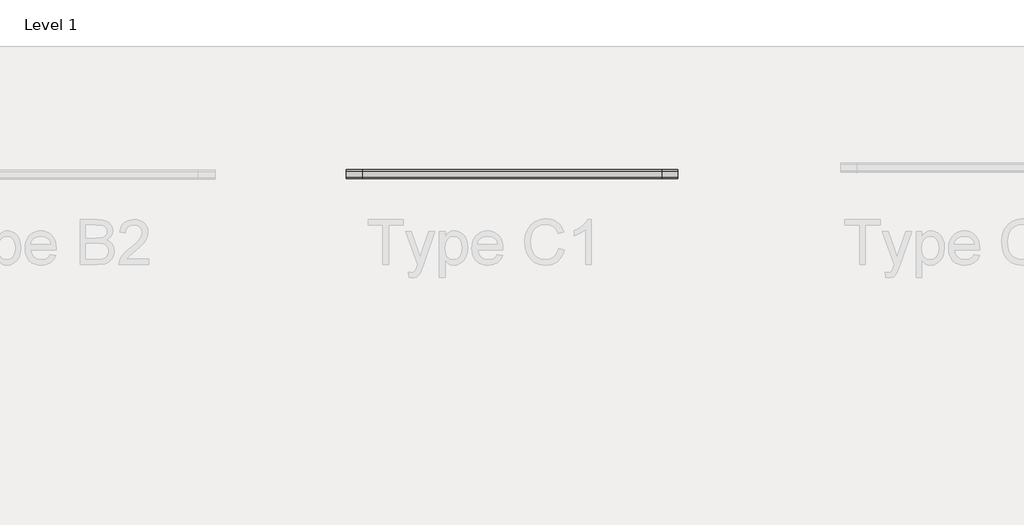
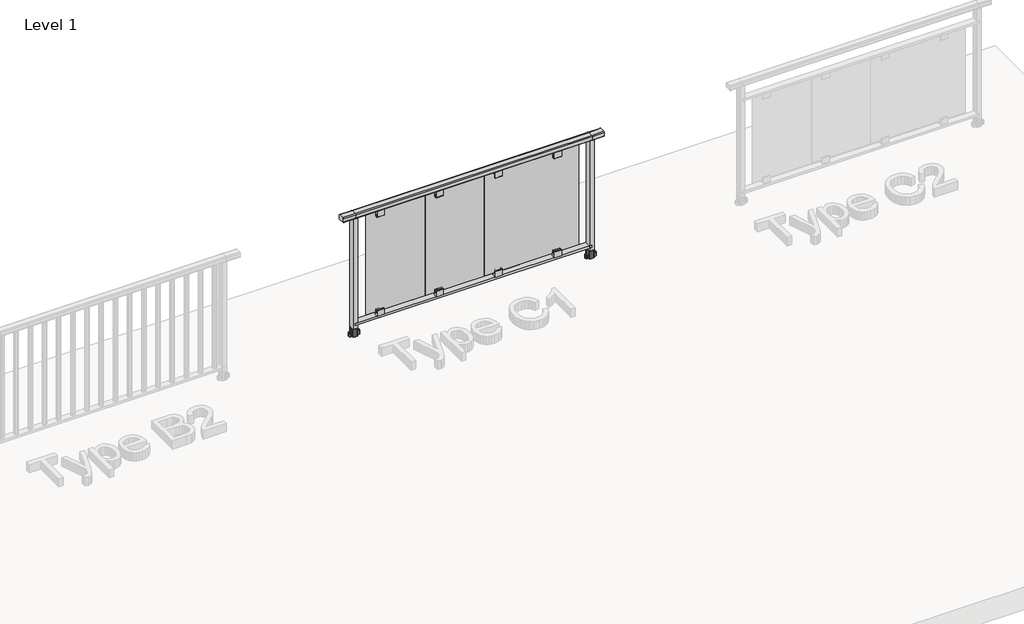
# One storey, part 5 of 9: 1 railing.
"""IFC4 building model written with IfcOpenShell, lengths in millimetres."""

from ifc_helpers import new_model, si_unit, point, frame, frame_2d, origin, origin_with_axes, place, context, project, spatial, polyline, circle_curve, trimmed, segment, composite_curve, outline, extrude, element, save
from ifc_brep_helpers import plane_surface, cylinder_surface, advanced_brep

model = new_model("IFC4")

# Units and contexts
model_context = context("Model", 3, world=origin())
ifc_project = project(units=[si_unit("LENGTHUNIT", "METRE", prefix="MILLI")], contexts=[model_context])

# Site, building, storey
site = spatial("IfcSite", under=ifc_project)
building = spatial("IfcBuilding", under=site)
storey = spatial("IfcBuildingStorey", under=building, Name="Level 1", Elevation=0.0)

# Railing
placement = place(None, origin())
element("IfcRailing", 1, ObjectType="OF-60 TYPE C1", at=placement, inside=storey, context=model_context, shape_type="SolidModel", body=[
    advanced_brep(
    [(3312.6973141, 1940.0077033, 1100.0), (3312.6973141, 1948.0077033, 1092.0), (3312.6973141, 1948.0077033, 1064.0), (3312.6973141, 1944.0077033, 1060.0), (3312.6973141, 1892.0077033, 1060.0), (3312.6973141, 1888.0077033, 1064.0), (3312.6973141, 1888.0077033, 1092.0), (3312.6973141, 1896.0077033, 1100.0), (3417.1953208, 1940.0077033, 1100.0), (3417.1953208, 1948.0077033, 1092.0), (3417.1953208, 1948.0077033, 1064.0), (3417.1953208, 1944.0077033, 1060.0), (3417.1953208, 1892.0077033, 1060.0), (3417.1953208, 1888.0077033, 1064.0), (3417.1953208, 1888.0077033, 1092.0), (3417.1953208, 1896.0077033, 1100.0), (5417.1953208, 1940.0077033, 1100.0), (5417.1953208, 1948.0077033, 1092.0), (5417.1953208, 1948.0077033, 1064.0), (5417.1953208, 1944.0077033, 1060.0), (5417.1953208, 1892.0077033, 1060.0), (5417.1953208, 1888.0077033, 1064.0), (5417.1953208, 1888.0077033, 1092.0), (5417.1953208, 1896.0077033, 1100.0), (5521.6933274, 1940.0077033, 1100.0), (5521.6933274, 1896.0077033, 1100.0), (5521.6933274, 1888.0077033, 1092.0), (5521.6933274, 1888.0077033, 1064.0), (5521.6933274, 1892.0077033, 1060.0), (5521.6933274, 1944.0077033, 1060.0), (5521.6933274, 1948.0077033, 1064.0), (5521.6933274, 1948.0077033, 1092.0)],
    [
        (0, 1, circle_curve(frame((3312.6973141, 1940.0077033, 1092.0), z_axis=(-1.0, 0.0, 0.0), x_axis=(0.0, 1.0, 0.0)), 8.0)),
        (1, 2),
        (2, 3, circle_curve(frame((3312.6973141, 1944.0077033, 1064.0), z_axis=(-1.0, 0.0, 0.0), x_axis=(0.0, 0.0, -1.0)), 4.0)),
        (3, 4),
        (4, 5, circle_curve(frame((3312.6973141, 1892.0077033, 1064.0), z_axis=(-1.0, 0.0, 0.0), x_axis=(0.0, -1.0, 0.0)), 4.0)),
        (5, 6),
        (6, 7, circle_curve(frame((3312.6973141, 1896.0077033, 1092.0), z_axis=(-1.0, 0.0, 0.0), x_axis=(0.0, 0.0, 1.0)), 8.0)),
        (7, 0),
        (0, 8),
        (8, 9, circle_curve(frame((3417.1953208, 1940.0077033, 1092.0), z_axis=(-1.0, 0.0, 0.0), x_axis=(0.0, 1.0, 0.0)), 8.0)),
        (9, 1),
        (9, 10),
        (10, 2),
        (10, 11, circle_curve(frame((3417.1953208, 1944.0077033, 1064.0), z_axis=(-1.0, 0.0, 0.0), x_axis=(0.0, 0.0, -1.0)), 4.0)),
        (11, 3),
        (11, 12),
        (12, 4),
        (12, 13, circle_curve(frame((3417.1953208, 1892.0077033, 1064.0), z_axis=(-1.0, 0.0, 0.0), x_axis=(0.0, -1.0, 0.0)), 4.0)),
        (13, 5),
        (13, 14),
        (14, 6),
        (14, 15, circle_curve(frame((3417.1953208, 1896.0077033, 1092.0), z_axis=(-1.0, 0.0, 0.0), x_axis=(0.0, 0.0, 1.0)), 8.0)),
        (15, 7),
        (15, 8),
        (8, 16),
        (16, 17, circle_curve(frame((5417.1953208, 1940.0077033, 1092.0), z_axis=(-1.0, 0.0, 0.0), x_axis=(0.0, 1.0, 0.0)), 8.0)),
        (17, 9),
        (17, 18),
        (18, 10),
        (18, 19, circle_curve(frame((5417.1953208, 1944.0077033, 1064.0), z_axis=(-1.0, 0.0, 0.0), x_axis=(0.0, 0.0, -1.0)), 4.0)),
        (19, 11),
        (19, 20),
        (20, 12),
        (20, 21, circle_curve(frame((5417.1953208, 1892.0077033, 1064.0), z_axis=(-1.0, 0.0, 0.0), x_axis=(0.0, -1.0, 0.0)), 4.0)),
        (21, 13),
        (21, 22),
        (22, 14),
        (22, 23, circle_curve(frame((5417.1953208, 1896.0077033, 1092.0), z_axis=(-1.0, 0.0, 0.0), x_axis=(0.0, 0.0, 1.0)), 8.0)),
        (23, 15),
        (23, 16),
        (24, 25),
        (25, 26, circle_curve(frame((5521.6933274, 1896.0077033, 1092.0), z_axis=(1.0, 0.0, 0.0), x_axis=(0.0, 0.0, 1.0)), 8.0)),
        (26, 27),
        (27, 28, circle_curve(frame((5521.6933274, 1892.0077033, 1064.0), z_axis=(1.0, 0.0, 0.0), x_axis=(0.0, -1.0, 0.0)), 4.0)),
        (28, 29),
        (29, 30, circle_curve(frame((5521.6933274, 1944.0077033, 1064.0), z_axis=(1.0, 0.0, 0.0), x_axis=(0.0, 0.0, -1.0)), 4.0)),
        (30, 31),
        (31, 24, circle_curve(frame((5521.6933274, 1940.0077033, 1092.0), z_axis=(1.0, 0.0, 0.0), x_axis=(0.0, 1.0, 0.0)), 8.0)),
        (16, 24),
        (31, 17),
        (30, 18),
        (29, 19),
        (28, 20),
        (27, 21),
        (26, 22),
        (25, 23),
    ],
    [
        plane_surface(frame((3312.6973141, 1948.0077033, 1100.0), z_axis=(-1.0, 0.0, 0.0), x_axis=(0.0, 1.0, 0.0))),
        cylinder_surface(frame((3312.6973141, 1940.0077033, 1092.0), z_axis=(-1.0, 0.0, 0.0), x_axis=(0.0, 1.0, 0.0)), 8.0),
        plane_surface(frame((3312.6973141, 1948.0077033, 1092.0), z_axis=(0.0, 1.0, 0.0), x_axis=(1.0, 0.0, 0.0))),
        cylinder_surface(frame((3312.6973141, 1944.0077033, 1064.0), z_axis=(-1.0, 0.0, 0.0), x_axis=(0.0, 0.0, -1.0)), 4.0),
        plane_surface(frame((3312.6973141, 1944.0077033, 1060.0), z_axis=(0.0, 0.0, -1.0), x_axis=(1.0, 0.0, 0.0))),
        cylinder_surface(frame((3312.6973141, 1892.0077033, 1064.0), z_axis=(-1.0, 0.0, 0.0), x_axis=(0.0, -1.0, 0.0)), 4.0),
        plane_surface(frame((3312.6973141, 1888.0077033, 1064.0), z_axis=(0.0, -1.0, 0.0), x_axis=(1.0, 0.0, 0.0))),
        cylinder_surface(frame((3312.6973141, 1896.0077033, 1092.0), z_axis=(-1.0, 0.0, 0.0), x_axis=(0.0, 0.0, 1.0)), 8.0),
        plane_surface(frame((3312.6973141, 1896.0077033, 1100.0), z_axis=(0.0, 0.0, 1.0), x_axis=(1.0, 0.0, 0.0))),
        cylinder_surface(frame((3417.1953208, 1940.0077033, 1092.0), z_axis=(-1.0, 0.0, 0.0), x_axis=(0.0, 1.0, 0.0)), 8.0),
        plane_surface(frame((3417.1953208, 1948.0077033, 1092.0), z_axis=(0.0, 1.0, 0.0), x_axis=(1.0, 0.0, 0.0))),
        cylinder_surface(frame((3417.1953208, 1944.0077033, 1064.0), z_axis=(-1.0, 0.0, 0.0), x_axis=(0.0, 0.0, -1.0)), 4.0),
        plane_surface(frame((3417.1953208, 1944.0077033, 1060.0), z_axis=(0.0, 0.0, -1.0), x_axis=(1.0, 0.0, 0.0))),
        cylinder_surface(frame((3417.1953208, 1892.0077033, 1064.0), z_axis=(-1.0, 0.0, 0.0), x_axis=(0.0, -1.0, 0.0)), 4.0),
        plane_surface(frame((3417.1953208, 1888.0077033, 1064.0), z_axis=(0.0, -1.0, 0.0), x_axis=(1.0, 0.0, 0.0))),
        cylinder_surface(frame((3417.1953208, 1896.0077033, 1092.0), z_axis=(-1.0, 0.0, 0.0), x_axis=(0.0, 0.0, 1.0)), 8.0),
        plane_surface(frame((3417.1953208, 1896.0077033, 1100.0), z_axis=(0.0, 0.0, 1.0), x_axis=(1.0, 0.0, 0.0))),
        plane_surface(frame((5521.6933274, 1948.0077033, 1100.0), z_axis=(1.0, 0.0, 0.0), x_axis=(0.0, 1.0, 0.0))),
        cylinder_surface(frame((5417.1953208, 1940.0077033, 1092.0), z_axis=(-1.0, 0.0, 0.0), x_axis=(0.0, 1.0, 0.0)), 8.0),
        plane_surface(frame((5417.1953208, 1948.0077033, 1092.0), z_axis=(0.0, 1.0, 0.0), x_axis=(1.0, 0.0, 0.0))),
        cylinder_surface(frame((5417.1953208, 1944.0077033, 1064.0), z_axis=(-1.0, 0.0, 0.0), x_axis=(0.0, 0.0, -1.0)), 4.0),
        plane_surface(frame((5417.1953208, 1944.0077033, 1060.0), z_axis=(0.0, 0.0, -1.0), x_axis=(1.0, 0.0, 0.0))),
        cylinder_surface(frame((5417.1953208, 1892.0077033, 1064.0), z_axis=(-1.0, 0.0, 0.0), x_axis=(0.0, -1.0, 0.0)), 4.0),
        plane_surface(frame((5417.1953208, 1888.0077033, 1064.0), z_axis=(0.0, -1.0, 0.0), x_axis=(1.0, 0.0, 0.0))),
        cylinder_surface(frame((5417.1953208, 1896.0077033, 1092.0), z_axis=(-1.0, 0.0, 0.0), x_axis=(0.0, 0.0, 1.0)), 8.0),
        plane_surface(frame((5417.1953208, 1896.0077033, 1100.0), z_axis=(0.0, 0.0, 1.0), x_axis=(1.0, 0.0, 0.0))),
    ],
    [
        (0, [[1, 2, 3, 4, 5, 6, 7, 8]]),
        (1, [[-1, 9, 10, 11]]),
        (2, [[-2, -11, 12, 13]]),
        (3, [[-3, -13, 14, 15]]),
        (4, [[-4, -15, 16, 17]]),
        (5, [[-5, -17, 18, 19]]),
        (6, [[-6, -19, 20, 21]]),
        (7, [[-7, -21, 22, 23]]),
        (8, [[-8, -23, 24, -9]]),
        (9, [[-10, 25, 26, 27]]),
        (10, [[-12, -27, 28, 29]]),
        (11, [[-14, -29, 30, 31]]),
        (12, [[-16, -31, 32, 33]]),
        (13, [[-18, -33, 34, 35]]),
        (14, [[-20, -35, 36, 37]]),
        (15, [[-22, -37, 38, 39]]),
        (16, [[-24, -39, 40, -25]]),
        (17, [[41, 42, 43, 44, 45, 46, 47, 48]]),
        (18, [[-26, 49, -48, 50]]),
        (19, [[-28, -50, -47, 51]]),
        (20, [[-30, -51, -46, 52]]),
        (21, [[-32, -52, -45, 53]]),
        (22, [[-34, -53, -44, 54]]),
        (23, [[-36, -54, -43, 55]]),
        (24, [[-38, -55, -42, 56]]),
        (25, [[-40, -56, -41, -49]]),
    ],
),
    extrude(outline(polyline([(3417.1953208, 1893.0077033), (3417.1953208, 1944.0077033), (5417.1953208, 1944.0077033), (5417.1953208, 1893.0077033), (3417.1953208, 1893.0077033)])), frame((0.0, 0.0, 98.9061283), z_axis=(0.0, 0.0, 1.0), x_axis=(1.0, 0.0, 0.0)), (0.0, 0.0, 1.0), 21.0938717),
    extrude(outline(polyline([(1891.9921415, 174.9998492), (1895.5076876, 174.9998492), (1895.5076876, 148.3784501), (1897.8564333, 144.9990479), (1909.1577033, 144.9990479), (1911.5077033, 148.3802548), (1911.5077033, 174.9990479), (1915.0232837, 174.9990479), (1918.0077033, 170.936253), (1918.0077033, 120.0), (1889.0077033, 120.0), (1889.0077033, 170.9372051), (1891.9921415, 174.9998492)])), frame((5099.0135026, 0.0, 0.0), z_axis=(1.0, 0.0, 0.0), x_axis=(0.0, 1.0, 0.0)), (0.0, 0.0, 1.0), 60.0),
    extrude(outline(polyline([(1891.9921415, 1005.0001508), (1889.0077033, 1009.0627949), (1889.0077033, 1060.0), (1918.0077033, 1060.0), (1918.0077033, 1009.063747), (1915.0232837, 1005.0009521), (1911.5077033, 1005.0009521), (1911.5077033, 1031.6197452), (1909.1577033, 1035.0009521), (1897.8564333, 1035.0009521), (1895.5076876, 1031.6215499), (1895.5076876, 1005.0001508), (1891.9921415, 1005.0001508)])), frame((5099.0135026, 0.0, 0.0), z_axis=(1.0, 0.0, 0.0), x_axis=(0.0, 1.0, 0.0)), (0.0, 0.0, 1.0), 60.0),
    extrude(outline(polyline([(4517.1953208, 1916.2828932), (5317.1953208, 1916.2828932), (5317.1953208, 1911.2828932), (4517.1953208, 1911.2828932), (4517.1953208, 1916.2828932)])), frame((0.0, 0.0, 147.0), z_axis=(0.0, 0.0, 1.0), x_axis=(1.0, 0.0, 0.0)), (0.0, 0.0, 1.0), 926.0),
    extrude(outline(polyline([(1891.9921415, 174.9998492), (1895.5076876, 174.9998492), (1895.5076876, 148.3784501), (1897.8564333, 144.9990479), (1909.1577033, 144.9990479), (1911.5077033, 148.3802548), (1911.5077033, 174.9990479), (1915.0232837, 174.9990479), (1918.0077033, 170.936253), (1918.0077033, 120.0), (1889.0077033, 120.0), (1889.0077033, 170.9372051), (1891.9921415, 174.9998492)])), frame((4599.0135026, 0.0, 0.0), z_axis=(1.0, 0.0, 0.0), x_axis=(0.0, 1.0, 0.0)), (0.0, 0.0, 1.0), 60.0),
    extrude(outline(polyline([(1891.9921415, 1005.0001508), (1889.0077033, 1009.0627949), (1889.0077033, 1060.0), (1918.0077033, 1060.0), (1918.0077033, 1009.063747), (1915.0232837, 1005.0009521), (1911.5077033, 1005.0009521), (1911.5077033, 1031.6197452), (1909.1577033, 1035.0009521), (1897.8564333, 1035.0009521), (1895.5076876, 1031.6215499), (1895.5076876, 1005.0001508), (1891.9921415, 1005.0001508)])), frame((4599.0135026, 0.0, 0.0), z_axis=(1.0, 0.0, 0.0), x_axis=(0.0, 1.0, 0.0)), (0.0, 0.0, 1.0), 60.0),
    extrude(outline(polyline([(4017.1953208, 1916.2828932), (4817.1953208, 1916.2828932), (4817.1953208, 1911.2828932), (4017.1953208, 1911.2828932), (4017.1953208, 1916.2828932)])), frame((0.0, 0.0, 147.0), z_axis=(0.0, 0.0, 1.0), x_axis=(1.0, 0.0, 0.0)), (0.0, 0.0, 1.0), 926.0),
    extrude(outline(polyline([(1891.9921415, 174.9998492), (1895.5076876, 174.9998492), (1895.5076876, 148.3784501), (1897.8564333, 144.9990479), (1909.1577033, 144.9990479), (1911.5077033, 148.3802548), (1911.5077033, 174.9990479), (1915.0232837, 174.9990479), (1918.0077033, 170.936253), (1918.0077033, 120.0), (1889.0077033, 120.0), (1889.0077033, 170.9372051), (1891.9921415, 174.9998492)])), frame((4099.0135026, 0.0, 0.0), z_axis=(1.0, 0.0, 0.0), x_axis=(0.0, 1.0, 0.0)), (0.0, 0.0, 1.0), 60.0),
    extrude(outline(polyline([(1891.9921415, 1005.0001508), (1889.0077033, 1009.0627949), (1889.0077033, 1060.0), (1918.0077033, 1060.0), (1918.0077033, 1009.063747), (1915.0232837, 1005.0009521), (1911.5077033, 1005.0009521), (1911.5077033, 1031.6197452), (1909.1577033, 1035.0009521), (1897.8564333, 1035.0009521), (1895.5076876, 1031.6215499), (1895.5076876, 1005.0001508), (1891.9921415, 1005.0001508)])), frame((4099.0135026, 0.0, 0.0), z_axis=(1.0, 0.0, 0.0), x_axis=(0.0, 1.0, 0.0)), (0.0, 0.0, 1.0), 60.0),
    extrude(outline(polyline([(3517.1953208, 1916.2828932), (4317.1953208, 1916.2828932), (4317.1953208, 1911.2828932), (3517.1953208, 1911.2828932), (3517.1953208, 1916.2828932)])), frame((0.0, 0.0, 147.0), z_axis=(0.0, 0.0, 1.0), x_axis=(1.0, 0.0, 0.0)), (0.0, 0.0, 1.0), 926.0),
    extrude(outline(polyline([(1891.9921415, 174.9998492), (1895.5076876, 174.9998492), (1895.5076876, 148.3784501), (1897.8564333, 144.9990479), (1909.1577033, 144.9990479), (1911.5077033, 148.3802548), (1911.5077033, 174.9990479), (1915.0232837, 174.9990479), (1918.0077033, 170.936253), (1918.0077033, 120.0), (1889.0077033, 120.0), (1889.0077033, 170.9372051), (1891.9921415, 174.9998492)])), frame((3599.0135026, 0.0, 0.0), z_axis=(1.0, 0.0, 0.0), x_axis=(0.0, 1.0, 0.0)), (0.0, 0.0, 1.0), 60.0),
    extrude(outline(polyline([(1891.9921415, 1005.0001508), (1889.0077033, 1009.0627949), (1889.0077033, 1060.0), (1918.0077033, 1060.0), (1918.0077033, 1009.063747), (1915.0232837, 1005.0009521), (1911.5077033, 1005.0009521), (1911.5077033, 1031.6197452), (1909.1577033, 1035.0009521), (1897.8564333, 1035.0009521), (1895.5076876, 1031.6215499), (1895.5076876, 1005.0001508), (1891.9921415, 1005.0001508)])), frame((3599.0135026, 0.0, 0.0), z_axis=(1.0, 0.0, 0.0), x_axis=(0.0, 1.0, 0.0)), (0.0, 0.0, 1.0), 60.0),
    extrude(outline(composite_curve([segment(polyline([(5436.2258206, 1892.0193046), (5422.1953208, 1890.2577033), (5412.1953208, 1890.2577033), (5398.1648209, 1892.0193046)]), True, "CONTINUOUS"), segment(trimmed(circle_curve(frame_2d((5398.3143134, 1893.2099565)), 1.2), [point((5398.1648209, 1892.0193046))], [point((5397.1180696, 1893.1150836))], False, "CARTESIAN"), True, "CONTINUOUS"), segment(polyline([(5397.1180696, 1893.1150836), (5396.1233274, 1905.6577033)]), True, "CONTINUOUS"), segment(trimmed(circle_curve(frame_2d((5631.4152151, 1918.0077033)), 235.6157782), [point((5396.1233274, 1905.6577033))], [point((5396.1233274, 1930.3577033))], False, "CARTESIAN"), True, "CONTINUOUS"), segment(polyline([(5396.1233274, 1930.3577033), (5397.1180696, 1942.900323)]), True, "CONTINUOUS"), segment(trimmed(circle_curve(frame_2d((5398.3143134, 1942.8054501)), 1.2), [point((5397.1180696, 1942.900323))], [point((5398.1648209, 1943.996102))], False, "CARTESIAN"), True, "CONTINUOUS"), segment(polyline([(5398.1648209, 1943.996102), (5412.1953208, 1945.7577033), (5422.1953208, 1945.7577033), (5436.2258206, 1943.996102)]), True, "CONTINUOUS"), segment(trimmed(circle_curve(frame_2d((5436.0763282, 1942.8054501)), 1.2), [point((5436.2258206, 1943.996102))], [point((5437.2725719, 1942.900323))], False, "CARTESIAN"), True, "CONTINUOUS"), segment(polyline([(5437.2725719, 1942.900323), (5438.2673141, 1930.3577033)]), True, "CONTINUOUS"), segment(trimmed(circle_curve(frame_2d((5202.9754264, 1918.0077033)), 235.6157782), [point((5438.2673141, 1930.3577033))], [point((5438.2673141, 1905.6577033))], False, "CARTESIAN"), True, "CONTINUOUS"), segment(polyline([(5438.2673141, 1905.6577033), (5437.2725719, 1893.1150836)]), True, "CONTINUOUS"), segment(trimmed(circle_curve(frame_2d((5436.0763282, 1893.2099565)), 1.2), [point((5437.2725719, 1893.1150836))], [point((5436.2258206, 1892.0193046))], False, "CARTESIAN"), True, "CONTINUOUS")], self_intersect=False), holes=[polyline([(5427.6953208, 1938.5077033), (5406.6953208, 1938.5077033), (5406.6953208, 1897.5077033), (5427.6953208, 1897.5077033), (5427.6953208, 1938.5077033)])]), origin_with_axes(), (0.0, 0.0, 1.0), 71.6433898),
    extrude(outline(composite_curve([segment(trimmed(circle_curve(frame_2d((5460.2395204, 1912.1577033)), 6.5), [point((5466.7395204, 1912.1577033))], [point((5460.2395204, 1905.6577033))], False, "CARTESIAN"), True, "CONTINUOUS"), segment(polyline([(5460.2395204, 1905.6577033), (5382.2355337, 1905.6577033)]), True, "CONTINUOUS"), segment(trimmed(circle_curve(frame_2d((5382.2355337, 1912.1577033)), 6.5), [point((5382.2355337, 1905.6577033))], [point((5375.7355337, 1912.1577033))], False, "CARTESIAN"), True, "CONTINUOUS"), segment(polyline([(5375.7355337, 1912.1577033), (5375.7355337, 1923.8577033)]), True, "CONTINUOUS"), segment(trimmed(circle_curve(frame_2d((5382.2355337, 1923.8577033)), 6.5), [point((5375.7355337, 1923.8577033))], [point((5382.2355337, 1930.3577033))], False, "CARTESIAN"), True, "CONTINUOUS"), segment(polyline([(5382.2355337, 1930.3577033), (5460.2395204, 1930.3577033)]), True, "CONTINUOUS"), segment(trimmed(circle_curve(frame_2d((5460.2395204, 1923.8577033)), 6.5), [point((5460.2395204, 1930.3577033))], [point((5466.7395204, 1923.8577033))], False, "CARTESIAN"), True, "CONTINUOUS"), segment(polyline([(5466.7395204, 1923.8577033), (5466.7395204, 1912.1577033)]), True, "CONTINUOUS")], self_intersect=False), holes=[composite_curve([segment(trimmed(circle_curve(frame_2d((5455.8095204, 1916.1577033)), 5.0), [point((5452.8954262, 1912.0946927))], [point((5460.8095204, 1916.1577033))], True, "CARTESIAN"), True, "CONTINUOUS"), segment(polyline([(5460.8095204, 1916.1577033), (5460.8095204, 1919.8577033)]), True, "CONTINUOUS"), segment(trimmed(circle_curve(frame_2d((5455.8095204, 1919.8577033)), 5.0), [point((5460.8095204, 1919.8577033))], [point((5452.8954262, 1923.9207139))], True, "CARTESIAN"), True, "CONTINUOUS"), segment(polyline([(5452.8954262, 1923.9207139), (5450.4874389, 1922.4357884)]), True, "CONTINUOUS"), segment(trimmed(circle_curve(frame_2d((5452.8095204, 1918.0077033)), 5.0), [point((5450.4874389, 1922.4357884))], [point((5450.4874389, 1913.5796182))], True, "CARTESIAN"), True, "CONTINUOUS"), segment(polyline([(5450.4874389, 1913.5796182), (5452.8954262, 1912.0946927)]), True, "CONTINUOUS")], self_intersect=False), composite_curve([segment(trimmed(circle_curve(frame_2d((5386.6655337, 1916.1577033)), 5.0), [point((5381.6655337, 1916.1577033))], [point((5389.5796279, 1912.0946927))], True, "CARTESIAN"), True, "CONTINUOUS"), segment(polyline([(5389.5796279, 1912.0946927), (5391.9876152, 1913.5796182)]), True, "CONTINUOUS"), segment(trimmed(circle_curve(frame_2d((5389.6655337, 1918.0077033)), 5.0), [point((5391.9876152, 1913.5796182))], [point((5391.9876152, 1922.4357884))], True, "CARTESIAN"), True, "CONTINUOUS"), segment(polyline([(5391.9876152, 1922.4357884), (5389.5796279, 1923.9207139)]), True, "CONTINUOUS"), segment(trimmed(circle_curve(frame_2d((5386.6655337, 1919.8577033)), 5.0), [point((5389.5796279, 1923.9207139))], [point((5381.6655337, 1919.8577033))], True, "CARTESIAN"), True, "CONTINUOUS"), segment(polyline([(5381.6655337, 1919.8577033), (5381.6655337, 1916.1577033)]), True, "CONTINUOUS")], self_intersect=False)]), origin_with_axes(), (0.0, 0.0, 1.0), 32.0),
    extrude(outline(polyline([(5398.1953208, 1943.0077033), (5436.1953208, 1943.0077033), (5436.1953208, 1893.0077033), (5398.1953208, 1893.0077033), (5398.1953208, 1943.0077033)])), origin_with_axes(), (0.0, 0.0, 1.0), 1060.0),
    extrude(outline(composite_curve([segment(polyline([(3436.2258206, 1892.0193046), (3422.1953208, 1890.2577033), (3412.1953208, 1890.2577033), (3398.1648209, 1892.0193046)]), True, "CONTINUOUS"), segment(trimmed(circle_curve(frame_2d((3398.3143134, 1893.2099565)), 1.2), [point((3398.1648209, 1892.0193046))], [point((3397.1180696, 1893.1150836))], False, "CARTESIAN"), True, "CONTINUOUS"), segment(polyline([(3397.1180696, 1893.1150836), (3396.1233274, 1905.6577033)]), True, "CONTINUOUS"), segment(trimmed(circle_curve(frame_2d((3631.4152151, 1918.0077033)), 235.6157782), [point((3396.1233274, 1905.6577033))], [point((3396.1233274, 1930.3577033))], False, "CARTESIAN"), True, "CONTINUOUS"), segment(polyline([(3396.1233274, 1930.3577033), (3397.1180696, 1942.900323)]), True, "CONTINUOUS"), segment(trimmed(circle_curve(frame_2d((3398.3143134, 1942.8054501)), 1.2), [point((3397.1180696, 1942.900323))], [point((3398.1648209, 1943.996102))], False, "CARTESIAN"), True, "CONTINUOUS"), segment(polyline([(3398.1648209, 1943.996102), (3412.1953208, 1945.7577033), (3422.1953208, 1945.7577033), (3436.2258206, 1943.996102)]), True, "CONTINUOUS"), segment(trimmed(circle_curve(frame_2d((3436.0763282, 1942.8054501)), 1.2), [point((3436.2258206, 1943.996102))], [point((3437.2725719, 1942.900323))], False, "CARTESIAN"), True, "CONTINUOUS"), segment(polyline([(3437.2725719, 1942.900323), (3438.2673141, 1930.3577033)]), True, "CONTINUOUS"), segment(trimmed(circle_curve(frame_2d((3202.9754264, 1918.0077033)), 235.6157782), [point((3438.2673141, 1930.3577033))], [point((3438.2673141, 1905.6577033))], False, "CARTESIAN"), True, "CONTINUOUS"), segment(polyline([(3438.2673141, 1905.6577033), (3437.2725719, 1893.1150836)]), True, "CONTINUOUS"), segment(trimmed(circle_curve(frame_2d((3436.0763282, 1893.2099565)), 1.2), [point((3437.2725719, 1893.1150836))], [point((3436.2258206, 1892.0193046))], False, "CARTESIAN"), True, "CONTINUOUS")], self_intersect=False), holes=[polyline([(3427.6953208, 1938.5077033), (3406.6953208, 1938.5077033), (3406.6953208, 1897.5077033), (3427.6953208, 1897.5077033), (3427.6953208, 1938.5077033)])]), origin_with_axes(), (0.0, 0.0, 1.0), 71.6433898),
    extrude(outline(composite_curve([segment(trimmed(circle_curve(frame_2d((3460.2395204, 1912.1577033)), 6.5), [point((3466.7395204, 1912.1577033))], [point((3460.2395204, 1905.6577033))], False, "CARTESIAN"), True, "CONTINUOUS"), segment(polyline([(3460.2395204, 1905.6577033), (3382.2355337, 1905.6577033)]), True, "CONTINUOUS"), segment(trimmed(circle_curve(frame_2d((3382.2355337, 1912.1577033)), 6.5), [point((3382.2355337, 1905.6577033))], [point((3375.7355337, 1912.1577033))], False, "CARTESIAN"), True, "CONTINUOUS"), segment(polyline([(3375.7355337, 1912.1577033), (3375.7355337, 1923.8577033)]), True, "CONTINUOUS"), segment(trimmed(circle_curve(frame_2d((3382.2355337, 1923.8577033)), 6.5), [point((3375.7355337, 1923.8577033))], [point((3382.2355337, 1930.3577033))], False, "CARTESIAN"), True, "CONTINUOUS"), segment(polyline([(3382.2355337, 1930.3577033), (3460.2395204, 1930.3577033)]), True, "CONTINUOUS"), segment(trimmed(circle_curve(frame_2d((3460.2395204, 1923.8577033)), 6.5), [point((3460.2395204, 1930.3577033))], [point((3466.7395204, 1923.8577033))], False, "CARTESIAN"), True, "CONTINUOUS"), segment(polyline([(3466.7395204, 1923.8577033), (3466.7395204, 1912.1577033)]), True, "CONTINUOUS")], self_intersect=False), holes=[composite_curve([segment(trimmed(circle_curve(frame_2d((3455.8095204, 1916.1577033)), 5.0), [point((3452.8954262, 1912.0946927))], [point((3460.8095204, 1916.1577033))], True, "CARTESIAN"), True, "CONTINUOUS"), segment(polyline([(3460.8095204, 1916.1577033), (3460.8095204, 1919.8577033)]), True, "CONTINUOUS"), segment(trimmed(circle_curve(frame_2d((3455.8095204, 1919.8577033)), 5.0), [point((3460.8095204, 1919.8577033))], [point((3452.8954262, 1923.9207139))], True, "CARTESIAN"), True, "CONTINUOUS"), segment(polyline([(3452.8954262, 1923.9207139), (3450.4874389, 1922.4357884)]), True, "CONTINUOUS"), segment(trimmed(circle_curve(frame_2d((3452.8095204, 1918.0077033)), 5.0), [point((3450.4874389, 1922.4357884))], [point((3450.4874389, 1913.5796182))], True, "CARTESIAN"), True, "CONTINUOUS"), segment(polyline([(3450.4874389, 1913.5796182), (3452.8954262, 1912.0946927)]), True, "CONTINUOUS")], self_intersect=False), composite_curve([segment(trimmed(circle_curve(frame_2d((3386.6655337, 1916.1577033)), 5.0), [point((3381.6655337, 1916.1577033))], [point((3389.5796279, 1912.0946927))], True, "CARTESIAN"), True, "CONTINUOUS"), segment(polyline([(3389.5796279, 1912.0946927), (3391.9876152, 1913.5796182)]), True, "CONTINUOUS"), segment(trimmed(circle_curve(frame_2d((3389.6655337, 1918.0077033)), 5.0), [point((3391.9876152, 1913.5796182))], [point((3391.9876152, 1922.4357884))], True, "CARTESIAN"), True, "CONTINUOUS"), segment(polyline([(3391.9876152, 1922.4357884), (3389.5796279, 1923.9207139)]), True, "CONTINUOUS"), segment(trimmed(circle_curve(frame_2d((3386.6655337, 1919.8577033)), 5.0), [point((3389.5796279, 1923.9207139))], [point((3381.6655337, 1919.8577033))], True, "CARTESIAN"), True, "CONTINUOUS"), segment(polyline([(3381.6655337, 1919.8577033), (3381.6655337, 1916.1577033)]), True, "CONTINUOUS")], self_intersect=False)]), origin_with_axes(), (0.0, 0.0, 1.0), 32.0),
    extrude(outline(polyline([(3398.1953208, 1943.0077033), (3436.1953208, 1943.0077033), (3436.1953208, 1893.0077033), (3398.1953208, 1893.0077033), (3398.1953208, 1943.0077033)])), origin_with_axes(), (0.0, 0.0, 1.0), 1060.0),
])

save(model, "model.ifc")
